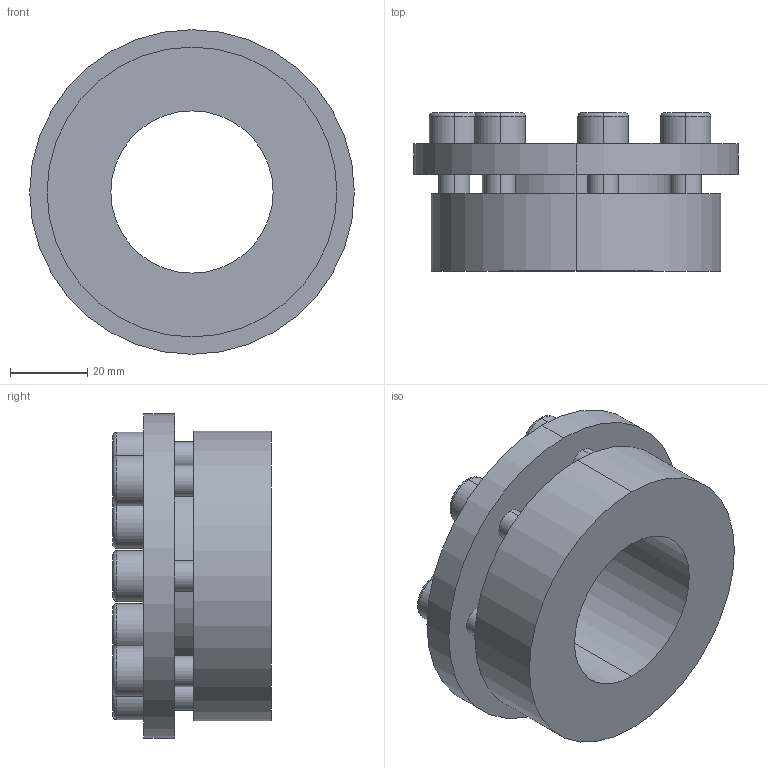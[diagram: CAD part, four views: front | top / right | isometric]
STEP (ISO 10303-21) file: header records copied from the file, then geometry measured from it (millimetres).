
FILE_DESCRIPTION (( 'STEP AP203' ), '1' );
FILE_NAME ('PL-H6 42-75.STEP', '2021-10-23T01:36:40', ( '' ), ( '' ), 'SwSTEP 2.0', 'SolidWorks 2018', '' );
FILE_SCHEMA (( 'CONFIG_CONTROL_DESIGN' ));
Length unit declared in the file: millimetre
Products named in the file (1): PL-H6 42-75
Bounding box: 84 x 41 x 84 mm (x, y, z)
Volume: 104507.3 mm3; surface area: 28298.6 mm2
Topology: 1 solids, 1 shells, 110 faces, 262 edges, 170 vertices
Faces by surface type: plane 60, cylinder 36, torus 14
Entity records: 3303 total; most frequent: DIRECTION 584, CARTESIAN_POINT 543, ORIENTED_EDGE 524, EDGE_CURVE 262, AXIS2_PLACEMENT_3D 211, VERTEX_POINT 170, VECTOR 162, LINE 162
